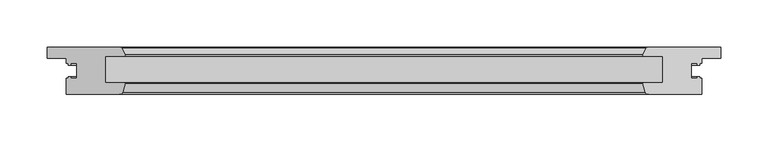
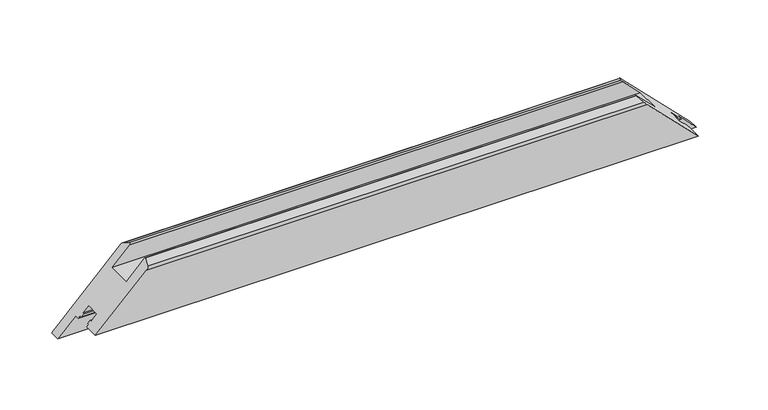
"""IFC4 building model written with IfcOpenShell, lengths in millimetres: proxy geometry, Weiku - Montante - Folha 02.2.01.017 : Weiku - Montante - Folha 02.2.01.017."""

from ifc_helpers import new_model, si_unit, frame, origin, place, context, project, spatial, ellipse_curve, source, transform, mapped, element, save
from ifc_brep_helpers import plane_surface, cylinder_surface, advanced_brep


def generic_models_4680bf91(model_context):
    return source(origin(), model_context, "Body", "AdvancedBrep", [
        advanced_brep(
        [(-336.9166667, -50.0, 20.0), (336.9166667, -50.0, 20.0), (279.9163998, -50.0, 77.0002668), (-279.9163998, -50.0, 77.0002668), (-356.9166667, 0.0, 0.0), (-278.9038931, 0.0, 78.0127736), (278.9038931, 0.0, 78.0127736), (356.9166667, 0.0, 0.0), (-277.0186224, -47.7764571, 79.8980443), (-274.4337038, -38.1294095, 82.4829629), (-274.9166667, -37.5, 82.0), (-295.4166667, -37.5, 61.5), (-295.4166667, -9.5, 61.5), (-275.6300951, -9.5, 81.2865715), (-274.4679462, -7.617411, 82.4487204), (-278.0099324, -0.5518546, 78.9067343), (-356.9166667, -11.5, 0.0), (-336.9166667, -11.5, 20.0), (-336.9166667, -16.9, 20.0), (-334.7166667, -16.9, 22.2), (-334.7166667, -18.9, 22.2), (-331.9166667, -18.9, 25.0), (-331.9166667, -16.9, 25.0), (-325.4166667, -16.9, 31.5), (-325.4166667, -33.1, 31.5), (-331.9166667, -33.1, 25.0), (-331.9166667, -31.1, 25.0), (-334.7166667, -31.1, 22.2), (-334.7166667, -33.1, 22.2), (-336.9166667, -33.1, 20.0), (336.9166667, -33.1, 20.0), (334.7166667, -33.1, 22.2), (334.7166667, -31.1, 22.2), (331.9166667, -31.1, 25.0), (331.9166667, -33.1, 25.0), (325.4166667, -33.1, 31.5), (325.4166667, -16.9, 31.5), (331.9166667, -16.9, 25.0), (331.9166667, -18.9, 25.0), (334.7166667, -18.9, 22.2), (334.7166667, -16.9, 22.2), (336.9166667, -16.9, 20.0), (336.9166667, -11.5, 20.0), (356.9166667, -11.5, 0.0), (278.0099324, -0.5518546, 78.9067343), (274.4679462, -7.617411, 82.4487204), (275.6300951, -9.5, 81.2865715), (295.4166667, -9.5, 61.5), (295.4166667, -37.5, 61.5), (274.9166667, -37.5, 82.0), (274.4337038, -38.1294095, 82.4829629), (277.0186224, -47.7764571, 79.8980443)],
        [
            (0, 1),
            (1, 2),
            (2, 3),
            (3, 0),
            (4, 5),
            (5, 6),
            (6, 7),
            (7, 4),
            (3, 8, ellipse_curve(frame((-279.9163998, -47.0, 77.0002668), z_axis=(-0.7071067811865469, 0.0, 0.7071067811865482), x_axis=(-0.707106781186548, 0.0, -0.7071067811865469)), 4.2426407, 3.0)),
            (8, 9),
            (9, 10, ellipse_curve(frame((-274.9166667, -38.0, 82.0), z_axis=(-0.7071067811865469, 0.0, 0.7071067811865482), x_axis=(-0.707106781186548, 0.0, -0.7071067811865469)), 0.7071068, 0.5)),
            (10, 11),
            (11, 12),
            (12, 13),
            (13, 14, ellipse_curve(frame((-275.6300951, -8.2, 81.2865715), z_axis=(-0.7071067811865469, 0.0, 0.7071067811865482), x_axis=(-0.707106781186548, 0.0, -0.7071067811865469)), 1.8384776, 1.3)),
            (14, 15),
            (15, 5, ellipse_curve(frame((-278.9038931, -1.0, 78.0127736), z_axis=(-0.7071067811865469, 0.0, 0.7071067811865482), x_axis=(-0.707106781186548, 0.0, -0.7071067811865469)), 1.4142136, 1.0)),
            (4, 16),
            (16, 17),
            (17, 18),
            (18, 19),
            (19, 20),
            (20, 21),
            (21, 22),
            (22, 23),
            (23, 24),
            (24, 25),
            (25, 26),
            (26, 27),
            (27, 28),
            (28, 29),
            (29, 0),
            (1, 30),
            (30, 31),
            (31, 32),
            (32, 33),
            (33, 34),
            (34, 35),
            (35, 36),
            (36, 37),
            (37, 38),
            (38, 39),
            (39, 40),
            (40, 41),
            (41, 42),
            (42, 43),
            (43, 7),
            (6, 44, ellipse_curve(frame((278.9038931, -1.0, 78.0127736), z_axis=(0.7071067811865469, 0.0, 0.7071067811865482), x_axis=(-0.707106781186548, 0.0, 0.7071067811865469)), 1.4142136, 1.0)),
            (44, 45),
            (45, 46, ellipse_curve(frame((275.6300951, -8.2, 81.2865715), z_axis=(0.7071067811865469, 0.0, 0.7071067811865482), x_axis=(-0.707106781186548, 0.0, 0.7071067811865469)), 1.8384776, 1.3)),
            (46, 47),
            (47, 48),
            (48, 49),
            (49, 50, ellipse_curve(frame((274.9166667, -38.0, 82.0), z_axis=(0.7071067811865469, 0.0, 0.7071067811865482), x_axis=(-0.707106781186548, 0.0, 0.7071067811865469)), 0.7071068, 0.5)),
            (50, 51),
            (51, 2, ellipse_curve(frame((279.9163998, -47.0, 77.0002668), z_axis=(0.7071067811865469, 0.0, 0.7071067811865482), x_axis=(-0.707106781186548, 0.0, 0.7071067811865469)), 4.2426407, 3.0)),
            (15, 44),
            (14, 45),
            (13, 46),
            (12, 47),
            (11, 48),
            (10, 49),
            (9, 50),
            (8, 51),
            (29, 30),
            (28, 31),
            (27, 32),
            (26, 33),
            (25, 34),
            (24, 35),
            (23, 36),
            (22, 37),
            (21, 38),
            (20, 39),
            (19, 40),
            (18, 41),
            (17, 42),
            (16, 43),
        ],
        [
            plane_surface(frame((-356.9166667, -50.0, 77.0002668), z_axis=(0.0, -1.0, 0.0), x_axis=(1.0, 0.0, 0.0))),
            plane_surface(frame((-356.9166667, 0.0, 0.0), z_axis=(0.0, 1.0, 0.0), x_axis=(1.0, 0.0, 0.0))),
            plane_surface(frame((-385.2009379, 0.0, -28.2842712), z_axis=(-0.7071067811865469, 0.0, 0.7071067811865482), x_axis=(0.0, -1.0, 0.0))),
            plane_surface(frame((266.9166667, 0.0, 90.0), z_axis=(0.7071067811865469, 0.0, 0.7071067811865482), x_axis=(0.0, -1.0, 0.0))),
            cylinder_surface(frame((-356.9166667, -1.0, 78.0127736), z_axis=(-1.0, 0.0, 0.0), x_axis=(0.0, -1.0, 0.0)), 1.0),
            plane_surface(frame((-356.9166667, -0.5518546, 78.9067343), z_axis=(0.0, 0.4481453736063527, 0.8939606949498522), x_axis=(1.0, 0.0, 0.0))),
            cylinder_surface(frame((-356.9166667, -8.2, 81.2865715), z_axis=(-1.0, 0.0, 0.0), x_axis=(0.0, -1.0, 0.0)), 1.3),
            plane_surface(frame((-356.9166667, -9.5, 81.2865715), z_axis=(0.0, -1.0, 0.0), x_axis=(1.0, 0.0, 0.0))),
            plane_surface(frame((-356.9166667, -9.5, 61.5), z_axis=(0.0, 0.0, 1.0), x_axis=(1.0, 0.0, 0.0))),
            plane_surface(frame((-356.9166667, -37.5, 61.5), z_axis=(0.0, 1.0, 0.0), x_axis=(1.0, 0.0, 0.0))),
            cylinder_surface(frame((-356.9166667, -38.0, 82.0), z_axis=(-1.0, 0.0, 0.0), x_axis=(0.0, -1.0, 0.0)), 0.5),
            plane_surface(frame((-356.9166667, -38.1294095, 82.4829629), z_axis=(0.0, -0.2588190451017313, 0.9659258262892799), x_axis=(1.0, 0.0, 0.0))),
            cylinder_surface(frame((-356.9166667, -47.0, 77.0002668), z_axis=(-1.0, 0.0, 0.0), x_axis=(0.0, -1.0, 0.0)), 3.0),
            plane_surface(frame((-356.9166667, -50.0, 20.0), z_axis=(0.0, 0.0, -1.0), x_axis=(1.0, 0.0, 0.0))),
            plane_surface(frame((-356.9166667, -33.1, 20.0), z_axis=(0.0, 1.0, 0.0), x_axis=(1.0, 0.0, 0.0))),
            plane_surface(frame((-356.9166667, -33.1, 22.2), z_axis=(0.0, 0.0, -1.0), x_axis=(1.0, 0.0, 0.0))),
            plane_surface(frame((-356.9166667, -31.1, 22.2), z_axis=(0.0, 1.0, 0.0), x_axis=(1.0, 0.0, 0.0))),
            plane_surface(frame((-356.9166667, -31.1, 25.0), z_axis=(0.0, 0.0, 1.0), x_axis=(1.0, 0.0, 0.0))),
            plane_surface(frame((-356.9166667, -33.1, 25.0), z_axis=(0.0, 1.0, 0.0), x_axis=(1.0, 0.0, 0.0))),
            plane_surface(frame((-356.9166667, -33.1, 31.5), z_axis=(0.0, 0.0, -1.0), x_axis=(1.0, 0.0, 0.0))),
            plane_surface(frame((-356.9166667, -16.9, 31.5), z_axis=(0.0, -1.0, 0.0), x_axis=(1.0, 0.0, 0.0))),
            plane_surface(frame((-356.9166667, -16.9, 25.0), z_axis=(0.0, 0.0, 1.0), x_axis=(1.0, 0.0, 0.0))),
            plane_surface(frame((-356.9166667, -18.9, 25.0), z_axis=(0.0, -1.0, 0.0), x_axis=(1.0, 0.0, 0.0))),
            plane_surface(frame((-356.9166667, -18.9, 22.2), z_axis=(0.0, 0.0, -1.0), x_axis=(1.0, 0.0, 0.0))),
            plane_surface(frame((-356.9166667, -16.9, 22.2), z_axis=(0.0, -1.0, 0.0), x_axis=(1.0, 0.0, 0.0))),
            plane_surface(frame((-356.9166667, -16.9, 20.0), z_axis=(0.0, 0.0, -1.0), x_axis=(1.0, 0.0, 0.0))),
            plane_surface(frame((-356.9166667, -11.5, 20.0), z_axis=(0.0, -1.0, 0.0), x_axis=(1.0, 0.0, 0.0))),
            plane_surface(frame((-356.9166667, -11.5, 0.0), z_axis=(0.0, 0.0, -1.0), x_axis=(1.0, 0.0, 0.0))),
        ],
        [
            (0, [[1, 2, 3, 4]]),
            (1, [[5, 6, 7, 8]]),
            (2, [[9, 10, 11, 12, 13, 14, 15, 16, 17, -5, 18, 19, 20, 21, 22, 23, 24, 25, 26, 27, 28, 29, 30, 31, 32, -4]]),
            (3, [[33, 34, 35, 36, 37, 38, 39, 40, 41, 42, 43, 44, 45, 46, 47, -7, 48, 49, 50, 51, 52, 53, 54, 55, 56, -2]]),
            (4, [[57, -48, -6, -17]]),
            (5, [[58, -49, -57, -16]]),
            (6, [[59, -50, -58, -15]]),
            (7, [[60, -51, -59, -14]]),
            (8, [[61, -52, -60, -13]]),
            (9, [[62, -53, -61, -12]]),
            (10, [[63, -54, -62, -11]]),
            (11, [[64, -55, -63, -10]]),
            (12, [[-3, -56, -64, -9]]),
            (13, [[65, -33, -1, -32]]),
            (14, [[66, -34, -65, -31]]),
            (15, [[67, -35, -66, -30]]),
            (16, [[68, -36, -67, -29]]),
            (17, [[69, -37, -68, -28]]),
            (18, [[70, -38, -69, -27]]),
            (19, [[71, -39, -70, -26]]),
            (20, [[72, -40, -71, -25]]),
            (21, [[73, -41, -72, -24]]),
            (22, [[74, -42, -73, -23]]),
            (23, [[75, -43, -74, -22]]),
            (24, [[76, -44, -75, -21]]),
            (25, [[77, -45, -76, -20]]),
            (26, [[-46, -77, -19, 78]]),
            (27, [[-47, -78, -18, -8]]),
        ],
    ),
    ])


if __name__ == "__main__":
    model = new_model("IFC4")
    model_context = context("Model", 3, world=origin())
    ifc_project = project(units=[si_unit("LENGTHUNIT", "METRE", prefix="MILLI")], contexts=[model_context])
    site = spatial("IfcSite", under=ifc_project)
    building = spatial("IfcBuilding", under=site)
    placement = place(None, origin())
    generic_models_shape = generic_models_4680bf91(model_context)
    element("IfcBuildingElementProxy", 1, Name="Weiku - Montante - Folha 02.2.01.017 : Weiku - Montante - Folha 02.2.01.017", ObjectType="Weiku - Montante - Folha 02.2.01.017 : Weiku - Montante - Folha 02.2.01.017", at=placement, inside=building, context=model_context, shape_type="MappedRepresentation", body=[
        mapped(generic_models_shape, transform((0.0, 0.0, 0.0), x_axis=(1.0, 0.0, 0.0), y_axis=(0.0, 1.0, 0.0), z_axis=(0.0, 0.0, 1.0))),
    ])
    save(model, "model.ifc")
